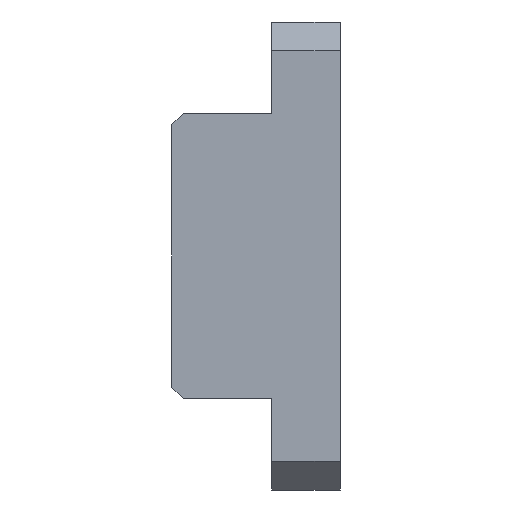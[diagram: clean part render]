
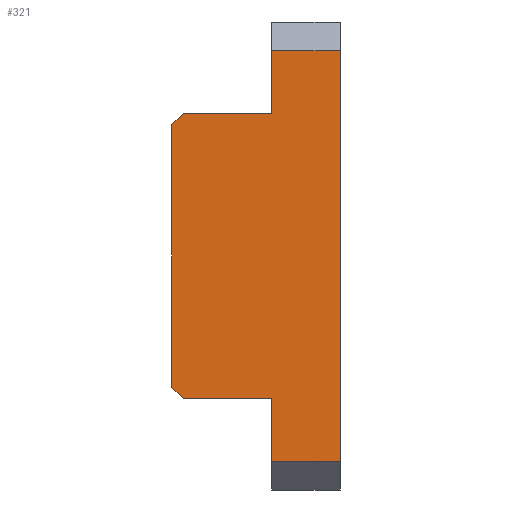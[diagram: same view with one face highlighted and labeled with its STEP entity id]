
A CAD part, left-side view. The second image highlights one B-rep face of the part: STEP entity #321.
In plain terms, the highlighted planar face has unit normal (-1, 0, 0).
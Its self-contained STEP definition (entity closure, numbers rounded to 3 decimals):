
#26 = VERTEX_POINT ( 'NONE', #1222 ) ;
#48 = EDGE_CURVE ( 'NONE', #471, #773, #263, .T. ) ;
#54 = LINE ( 'NONE', #678, #1530 ) ;
#86 = LINE ( 'NONE', #513, #1263 ) ;
#105 = VECTOR ( 'NONE', #1481, 1000. ) ;
#114 = AXIS2_PLACEMENT_3D ( 'NONE', #417, #271, #665 ) ;
#185 = EDGE_CURVE ( 'NONE', #1102, #26, #1396, .T. ) ;
#189 = VECTOR ( 'NONE', #895, 1000. ) ;
#222 = CARTESIAN_POINT ( 'NONE',  ( -41.5, 12., 36. ) ) ;
#248 = EDGE_CURVE ( 'NONE', #810, #773, #249, .T. ) ;
#249 = LINE ( 'NONE', #1177, #1398 ) ;
#256 = DIRECTION ( 'NONE',  ( 0., -1., 0. ) ) ;
#260 = DIRECTION ( 'NONE',  ( 0., 0., 1. ) ) ;
#263 = LINE ( 'NONE', #512, #189 ) ;
#271 = DIRECTION ( 'NONE',  ( 1., 0., 0. ) ) ;
#291 = ORIENTED_EDGE ( 'NONE', *, *, #617, .T. ) ;
#296 = ORIENTED_EDGE ( 'NONE', *, *, #432, .T. ) ;
#321 = ADVANCED_FACE ( 'NONE', ( #426 ), #1110, .F. ) ;
#413 = VERTEX_POINT ( 'NONE', #1081 ) ;
#417 = CARTESIAN_POINT ( 'NONE',  ( -41.5, 29.5, -25. ) ) ;
#426 = FACE_OUTER_BOUND ( 'NONE', #1221, .T. ) ;
#432 = EDGE_CURVE ( 'NONE', #26, #539, #1065, .T. ) ;
#471 = VERTEX_POINT ( 'NONE', #222 ) ;
#510 = EDGE_CURVE ( 'NONE', #810, #825, #86, .T. ) ;
#512 = CARTESIAN_POINT ( 'NONE',  ( -41.5, 12., 25. ) ) ;
#513 = CARTESIAN_POINT ( 'NONE',  ( -41.5, 29.5, 23. ) ) ;
#531 = CARTESIAN_POINT ( 'NONE',  ( -41.5, 12., 25. ) ) ;
#539 = VERTEX_POINT ( 'NONE', #1324 ) ;
#582 = DIRECTION ( 'NONE',  ( 0., -0.707, -0.707 ) ) ;
#617 = EDGE_CURVE ( 'NONE', #413, #471, #1462, .T. ) ;
#628 = VERTEX_POINT ( 'NONE', #1430 ) ;
#660 = VECTOR ( 'NONE', #702, 1000. ) ;
#665 = DIRECTION ( 'NONE',  ( 0., 0., -1. ) ) ;
#678 = CARTESIAN_POINT ( 'NONE',  ( -41.5, 29.5, -25. ) ) ;
#692 = ORIENTED_EDGE ( 'NONE', *, *, #801, .T. ) ;
#697 = VECTOR ( 'NONE', #867, 1000. ) ;
#702 = DIRECTION ( 'NONE',  ( 0., 0., 1. ) ) ;
#744 = LINE ( 'NONE', #1083, #660 ) ;
#760 = EDGE_CURVE ( 'NONE', #950, #1102, #1386, .T. ) ;
#761 = DIRECTION ( 'NONE',  ( 0., 1., 0. ) ) ;
#771 = CARTESIAN_POINT ( 'NONE',  ( -41.5, 27.5, 25. ) ) ;
#773 = VERTEX_POINT ( 'NONE', #531 ) ;
#801 = EDGE_CURVE ( 'NONE', #628, #950, #1040, .T. ) ;
#810 = VERTEX_POINT ( 'NONE', #771 ) ;
#825 = VERTEX_POINT ( 'NONE', #1169 ) ;
#832 = CARTESIAN_POINT ( 'NONE',  ( -41.5, 0., -36. ) ) ;
#846 = DIRECTION ( 'NONE',  ( 0., 0.707, -0.707 ) ) ;
#858 = VECTOR ( 'NONE', #1340, 1000. ) ;
#867 = DIRECTION ( 'NONE',  ( 0., -1., 0. ) ) ;
#877 = VECTOR ( 'NONE', #761, 1000. ) ;
#895 = DIRECTION ( 'NONE',  ( 0., 0., -1. ) ) ;
#898 = ORIENTED_EDGE ( 'NONE', *, *, #248, .F. ) ;
#944 = EDGE_CURVE ( 'NONE', #539, #413, #744, .T. ) ;
#950 = VERTEX_POINT ( 'NONE', #1277 ) ;
#1006 = CARTESIAN_POINT ( 'NONE',  ( -41.5, 12., -25. ) ) ;
#1017 = CARTESIAN_POINT ( 'NONE',  ( -41.5, 29.5, -23. ) ) ;
#1037 = ORIENTED_EDGE ( 'NONE', *, *, #510, .T. ) ;
#1040 = LINE ( 'NONE', #1017, #1471 ) ;
#1065 = LINE ( 'NONE', #832, #697 ) ;
#1081 = CARTESIAN_POINT ( 'NONE',  ( -41.5, 0., 36. ) ) ;
#1083 = CARTESIAN_POINT ( 'NONE',  ( -41.5, 0., -25. ) ) ;
#1102 = VERTEX_POINT ( 'NONE', #1167 ) ;
#1110 = PLANE ( 'NONE',  #114 ) ;
#1148 = CARTESIAN_POINT ( 'NONE',  ( -41.5, 12., 36. ) ) ;
#1167 = CARTESIAN_POINT ( 'NONE',  ( -41.5, 12., -25. ) ) ;
#1169 = CARTESIAN_POINT ( 'NONE',  ( -41.5, 29.5, 23. ) ) ;
#1177 = CARTESIAN_POINT ( 'NONE',  ( -41.5, 29.5, 25. ) ) ;
#1221 = EDGE_LOOP ( 'NONE', ( #1506, #692, #1568, #1626, #296, #1470, #291, #1408, #898, #1037 ) ) ;
#1222 = CARTESIAN_POINT ( 'NONE',  ( -41.5, 12., -36. ) ) ;
#1234 = EDGE_CURVE ( 'NONE', #628, #825, #54, .T. ) ;
#1263 = VECTOR ( 'NONE', #846, 1000. ) ;
#1277 = CARTESIAN_POINT ( 'NONE',  ( -41.5, 27.5, -25. ) ) ;
#1324 = CARTESIAN_POINT ( 'NONE',  ( -41.5, 0., -36. ) ) ;
#1340 = DIRECTION ( 'NONE',  ( 0., 0., -1. ) ) ;
#1386 = LINE ( 'NONE', #1557, #105 ) ;
#1396 = LINE ( 'NONE', #1006, #858 ) ;
#1398 = VECTOR ( 'NONE', #256, 1000. ) ;
#1408 = ORIENTED_EDGE ( 'NONE', *, *, #48, .T. ) ;
#1430 = CARTESIAN_POINT ( 'NONE',  ( -41.5, 29.5, -23. ) ) ;
#1462 = LINE ( 'NONE', #1148, #877 ) ;
#1470 = ORIENTED_EDGE ( 'NONE', *, *, #944, .T. ) ;
#1471 = VECTOR ( 'NONE', #582, 1000. ) ;
#1481 = DIRECTION ( 'NONE',  ( 0., -1., 0. ) ) ;
#1506 = ORIENTED_EDGE ( 'NONE', *, *, #1234, .F. ) ;
#1530 = VECTOR ( 'NONE', #260, 1000. ) ;
#1557 = CARTESIAN_POINT ( 'NONE',  ( -41.5, 29.5, -25. ) ) ;
#1568 = ORIENTED_EDGE ( 'NONE', *, *, #760, .T. ) ;
#1626 = ORIENTED_EDGE ( 'NONE', *, *, #185, .T. ) ;
